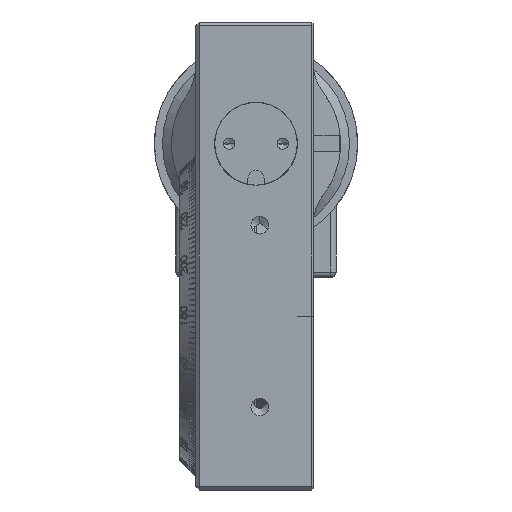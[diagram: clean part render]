
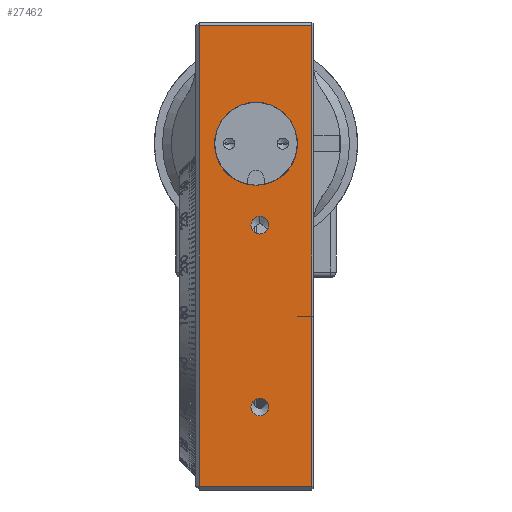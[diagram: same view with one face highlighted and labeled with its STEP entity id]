
A CAD part, left-side view. The second image highlights one B-rep face of the part: STEP entity #27462.
In plain terms, the highlighted planar face has unit normal (-1, 0, 0).
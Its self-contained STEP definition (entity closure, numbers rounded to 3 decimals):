
#630 = EDGE_CURVE ( 'NONE', #669, #631, #25755, .T. ) ;
#631 = VERTEX_POINT ( 'NONE', #25837 ) ;
#669 = VERTEX_POINT ( 'NONE', #25980 ) ;
#7876 = DIRECTION ( 'NONE',  ( 0., 0., 1. ) ) ;
#7877 = DIRECTION ( 'NONE',  ( -1., 0., 0. ) ) ;
#7878 = CARTESIAN_POINT ( 'NONE',  ( -32.5, 10., 17. ) ) ;
#7879 = AXIS2_PLACEMENT_3D ( 'NONE', #7878, #7877, #7876 ) ;
#7880 = CIRCLE ( 'NONE', #7879, 1.65 ) ;
#7985 = CARTESIAN_POINT ( 'NONE',  ( -32.5, 10., 15.35 ) ) ;
#8052 = CARTESIAN_POINT ( 'NONE',  ( -32.5, 10., -18.65 ) ) ;
#8657 = CARTESIAN_POINT ( 'NONE',  ( -32.5, 10., 18.65 ) ) ;
#9288 = CIRCLE ( 'NONE', #9356, 1.65 ) ;
#9308 = CARTESIAN_POINT ( 'NONE',  ( -32.5, 10., -15.35 ) ) ;
#9353 = DIRECTION ( 'NONE',  ( 0., 0., 1. ) ) ;
#9354 = DIRECTION ( 'NONE',  ( -1., 0., 0. ) ) ;
#9355 = CARTESIAN_POINT ( 'NONE',  ( -32.5, 10., -17. ) ) ;
#9356 = AXIS2_PLACEMENT_3D ( 'NONE', #9355, #9354, #9353 ) ;
#10723 = FACE_BOUND ( 'NONE', #27468, .T. ) ;
#10776 = DIRECTION ( 'NONE',  ( 0., 0., -1. ) ) ;
#10777 = DIRECTION ( 'NONE',  ( 1., 0., 0. ) ) ;
#10778 = AXIS2_PLACEMENT_3D ( 'NONE', #10780, #10777, #10776 ) ;
#10780 = CARTESIAN_POINT ( 'NONE',  ( -32.5, 22., -32.5 ) ) ;
#10781 = PLANE ( 'NONE',  #10778 ) ;
#10782 = FACE_BOUND ( 'NONE', #27670, .T. ) ;
#10783 = FACE_OUTER_BOUND ( 'NONE', #27623, .T. ) ;
#10784 = FACE_BOUND ( 'NONE', #27539, .T. ) ;
#10801 = DIRECTION ( 'NONE',  ( 0., 0., 1. ) ) ;
#10802 = DIRECTION ( 'NONE',  ( -1., 0., 0. ) ) ;
#10803 = CARTESIAN_POINT ( 'NONE',  ( -32.5, 10., 17. ) ) ;
#10804 = AXIS2_PLACEMENT_3D ( 'NONE', #10803, #10802, #10801 ) ;
#10805 = CIRCLE ( 'NONE', #10804, 1.65 ) ;
#10823 = DIRECTION ( 'NONE',  ( 0., 0., 1. ) ) ;
#10824 = DIRECTION ( 'NONE',  ( -1., 0., 0. ) ) ;
#10825 = AXIS2_PLACEMENT_3D ( 'NONE', #10830, #10824, #10823 ) ;
#10826 = CIRCLE ( 'NONE', #10825, 1.65 ) ;
#10830 = CARTESIAN_POINT ( 'NONE',  ( -32.5, 10., -17. ) ) ;
#10884 = CARTESIAN_POINT ( 'NONE',  ( -32.5, 21.3, 54.3 ) ) ;
#10886 = CARTESIAN_POINT ( 'NONE',  ( -32.5, 0.3, 54.3 ) ) ;
#10893 = DIRECTION ( 'NONE',  ( 0., 0., 1. ) ) ;
#10894 = VECTOR ( 'NONE', #10893, 1000. ) ;
#10895 = CARTESIAN_POINT ( 'NONE',  ( -32.5, 0.3, -32.5 ) ) ;
#10896 = LINE ( 'NONE', #10895, #10894 ) ;
#10904 = CARTESIAN_POINT ( 'NONE',  ( -32.5, 0.3, -31.8 ) ) ;
#10905 = CARTESIAN_POINT ( 'NONE',  ( -32.5, 21.3, -31.8 ) ) ;
#10969 = DIRECTION ( 'NONE',  ( 0., 1., 0. ) ) ;
#10970 = DIRECTION ( 'NONE',  ( 1., 0., 0. ) ) ;
#10972 = CARTESIAN_POINT ( 'NONE',  ( -32.5, 10.7, 32.25 ) ) ;
#10973 = AXIS2_PLACEMENT_3D ( 'NONE', #10972, #10970, #10969 ) ;
#10975 = CIRCLE ( 'NONE', #10973, 7.75 ) ;
#11082 = CARTESIAN_POINT ( 'NONE',  ( -32.5, 22., 54.3 ) ) ;
#11083 = LINE ( 'NONE', #11082, #11113 ) ;
#11098 = DIRECTION ( 'NONE',  ( 0., -1., 0. ) ) ;
#11099 = VECTOR ( 'NONE', #11098, 1000. ) ;
#11100 = CARTESIAN_POINT ( 'NONE',  ( -32.5, 22., -31.8 ) ) ;
#11101 = LINE ( 'NONE', #11100, #11099 ) ;
#11112 = DIRECTION ( 'NONE',  ( 0., 1., 0. ) ) ;
#11113 = VECTOR ( 'NONE', #11112, 1000. ) ;
#11138 = DIRECTION ( 'NONE',  ( 0., 0., -1. ) ) ;
#11139 = VECTOR ( 'NONE', #11138, 1000. ) ;
#11140 = CARTESIAN_POINT ( 'NONE',  ( -32.5, 21.3, -32.5 ) ) ;
#11141 = LINE ( 'NONE', #11140, #11139 ) ;
#14347 = EDGE_CURVE ( 'NONE', #14722, #15475, #7880, .T. ) ;
#14722 = VERTEX_POINT ( 'NONE', #7985 ) ;
#14809 = VERTEX_POINT ( 'NONE', #8052 ) ;
#15475 = VERTEX_POINT ( 'NONE', #8657 ) ;
#15701 = VERTEX_POINT ( 'NONE', #9308 ) ;
#15971 = EDGE_CURVE ( 'NONE', #14809, #15701, #9288, .T. ) ;
#25755 = CIRCLE ( 'NONE', #25875, 7.75 ) ;
#25837 = CARTESIAN_POINT ( 'NONE',  ( -32.5, 18.45, 32.25 ) ) ;
#25839 = DIRECTION ( 'NONE',  ( 0., 1., 0. ) ) ;
#25841 = DIRECTION ( 'NONE',  ( 1., 0., 0. ) ) ;
#25873 = CARTESIAN_POINT ( 'NONE',  ( -32.5, 10.7, 32.25 ) ) ;
#25875 = AXIS2_PLACEMENT_3D ( 'NONE', #25873, #25841, #25839 ) ;
#25980 = CARTESIAN_POINT ( 'NONE',  ( -32.5, 2.95, 32.25 ) ) ;
#27462 = ADVANCED_FACE ( 'NONE', ( #10723, #10784, #10783, #10782 ), #10781, .F. ) ;
#27468 = EDGE_LOOP ( 'NONE', ( #27528, #27536 ) ) ;
#27528 = ORIENTED_EDGE ( 'NONE', *, *, #27530, .F. ) ;
#27530 = EDGE_CURVE ( 'NONE', #15475, #14722, #10805, .T. ) ;
#27536 = ORIENTED_EDGE ( 'NONE', *, *, #14347, .F. ) ;
#27539 = EDGE_LOOP ( 'NONE', ( #27606, #27617 ) ) ;
#27606 = ORIENTED_EDGE ( 'NONE', *, *, #27610, .F. ) ;
#27610 = EDGE_CURVE ( 'NONE', #15701, #14809, #10826, .T. ) ;
#27617 = ORIENTED_EDGE ( 'NONE', *, *, #15971, .F. ) ;
#27623 = EDGE_LOOP ( 'NONE', ( #27911, #27757, #27773, #27937 ) ) ;
#27670 = EDGE_LOOP ( 'NONE', ( #27676, #27854 ) ) ;
#27676 = ORIENTED_EDGE ( 'NONE', *, *, #27838, .T. ) ;
#27752 = VERTEX_POINT ( 'NONE', #10905 ) ;
#27754 = VERTEX_POINT ( 'NONE', #10904 ) ;
#27757 = ORIENTED_EDGE ( 'NONE', *, *, #27765, .T. ) ;
#27765 = EDGE_CURVE ( 'NONE', #27754, #27769, #10896, .T. ) ;
#27769 = VERTEX_POINT ( 'NONE', #10886 ) ;
#27773 = ORIENTED_EDGE ( 'NONE', *, *, #27927, .T. ) ;
#27779 = VERTEX_POINT ( 'NONE', #10884 ) ;
#27838 = EDGE_CURVE ( 'NONE', #631, #669, #10975, .T. ) ;
#27854 = ORIENTED_EDGE ( 'NONE', *, *, #630, .T. ) ;
#27911 = ORIENTED_EDGE ( 'NONE', *, *, #27917, .T. ) ;
#27917 = EDGE_CURVE ( 'NONE', #27752, #27754, #11101, .T. ) ;
#27927 = EDGE_CURVE ( 'NONE', #27769, #27779, #11083, .T. ) ;
#27937 = ORIENTED_EDGE ( 'NONE', *, *, #27942, .T. ) ;
#27942 = EDGE_CURVE ( 'NONE', #27779, #27752, #11141, .T. ) ;
